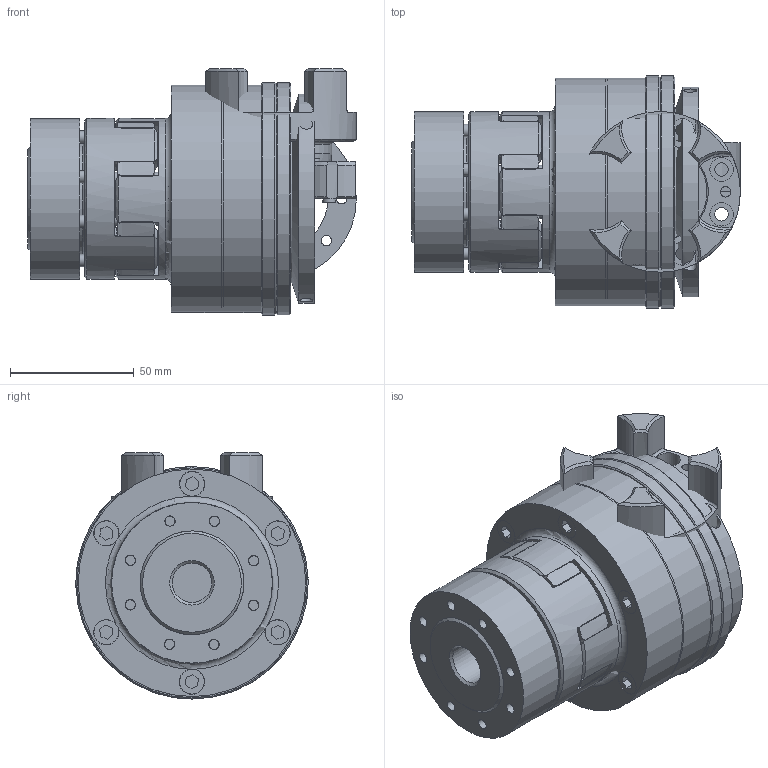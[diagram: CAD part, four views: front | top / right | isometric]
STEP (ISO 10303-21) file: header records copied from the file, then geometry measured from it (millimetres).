
FILE_DESCRIPTION( ( 'Unknown' ), '1' );
FILE_NAME( 'C:/Dokumente und Einstellungen/Sven/Desktop/hp kbk/E-AP/KBK EAP-28-117.stp', 'Unknown', ( 'Unknown' ), ( 'Unknown' ), 'XStep 1.0', 'Unknown', ' ' );
FILE_SCHEMA( ( 'automotive_design' ) );
Length unit declared in the file: millimetre
Products named in the file (17): Assem1; Assem2; Assem3; ball_bearing_-_6008_0_01_0; ball_bearing_-_6008_0_02_0; ball_bearing_-_6008_0_03_0; Zylinderschraube DIN 912_3; KBK L-P-80 Grundkörper_0; Stellring 80_0; Druckring 80_0; Flansch 80_0; a_40_0; Elastomerflansch 28_0; Zahnkranz EK28_Standard_0; KBE 3 - 28_Nabe; KBE3-28_Druckring_0; ISO EN DIN 4762 M5x25
Bounding box: 132.95 x 94 x 99.5 mm (x, y, z)
Volume: 938997.5 mm3; surface area: 325711.5 mm2
Topology: 44 solids, 44 shells, 1054 faces, 2378 edges, 1514 vertices
Faces by surface type: plane 372, cylinder 354, cone 261, torus 67
Full cylindrical faces by diameter (mm): 2.5 x4, 3.242 x6, 4.2 x24, 4.917 x12, 5 x33, 5.2 x6, 5.5 x16, 6 x8, 6.2 x12, 8.5 x9, 9.5 x16, 10 x8, 10.2 x12, 16 x2, 30 x6, 37.5 x2, 39 x2, 40 x7, 45 x2, 49.2 x6, 59.1 x6, 61 x2, 62 x4, 65 x6, 68 x7, 70 x2, 85 x2, 87 x2, 90 x4, 92 x2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
Entity records: 12257 total; most frequent: CARTESIAN_POINT 2592, DIRECTION 1969, ORIENTED_EDGE 1484, AXIS2_PLACEMENT_3D 916, EDGE_CURVE 742, EDGE_LOOP 673, VERTEX_POINT 551, FACE_OUTER_BOUND 519
